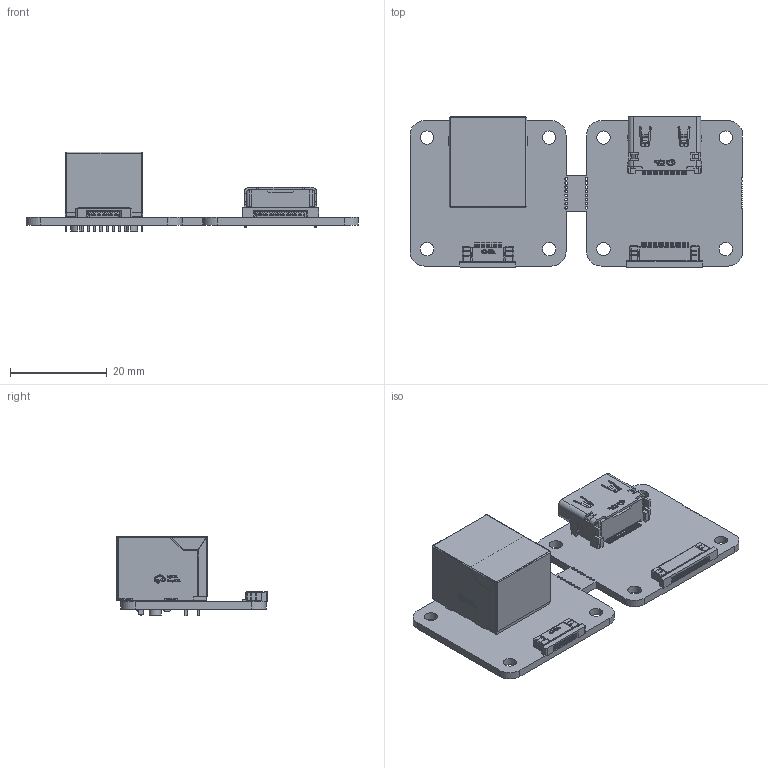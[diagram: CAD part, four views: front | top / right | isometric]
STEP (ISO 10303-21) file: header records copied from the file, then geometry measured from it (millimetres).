
FILE_DESCRIPTION(/* description */ ('Designed by EasyEDA Pro'),/* implementation_level */ '2;1');
FILE_NAME(/* name */ 'terioto_CMX_LAN_HDMI_Adapter_V2.0.step',/* time_stamp */ '2026-03-06T22:28:38+01:00',/* author */ (''),/* organization */ (''),/* preprocessor_version */ 'ST-DEVELOPER v20.1',/* originating_system */ 'Autodesk Translation Framework v14.24.0.0',/* authorisation */ '');
FILE_SCHEMA (('AUTOMOTIVE_DESIGN { 1 0 10303 214 3 1 1 }'));
Products named in the file (12): EasyEDA PCB Model~eyiH; Board~eyiH; CN1~HDMI-SMD_HYC109-HDMIA19-160~HDMI-SMD_HYC109-HDMIA19-160~eyiH; HDMI-SMD_HYC109-HDMIA19-160~HDMI-SMD_HYC109-HDMIA19-160~eyiH; RJ2~RJ45-TH_KH-RJ45-58-8P8C~RJ45-TH_KH-RJ45-58-8P8C~eyiH; RJ45-TH_KH-RJ45-58-8P8C~RJ45-TH_KH-RJ45-58-8P8C~eyiH; FPC2~FPC-SMD_12P-P0.50_05B20L12P~FPC-SMD_12P-P0.50_05B20L12P~eyiH; FPC-SMD_12P-P0.50_05B20L12P~FPC-SMD_12P-P0.50_05B20L12P~eyiH; HDMI1~HDMI-SMD_HDMI-19PIN-043~HDMI-SMD_HDMI-9PIN-043~eyiH; HDMI-SMD_HDMI-19PIN-043~HDMI-SMD_HDMI-9PIN-043~eyiH; FPC1~FPC-SMD_20P-P0.50_0.5K-AX-20PWB~FPC-SMD_20P-P0.50_0.5K-AX-20PWB~
eyiH; FPC-SMD_20P-P0.50_0.5K-AX-20PWB~FPC-SMD_20P-P0.50_0.5K-AX-20PWB~eyiH
Assembly tree (11 placements, depth 3):
  EasyEDA PCB Model~eyiH
    Board~eyiH
    CN1~HDMI-SMD_HYC109-HDMIA19-160~HDMI-SMD_HYC109-HDMIA19-160~eyiH
      HDMI-SMD_HYC109-HDMIA19-160~HDMI-SMD_HYC109-HDMIA19-160~eyiH
    RJ2~RJ45-TH_KH-RJ45-58-8P8C~RJ45-TH_KH-RJ45-58-8P8C~eyiH
      RJ45-TH_KH-RJ45-58-8P8C~RJ45-TH_KH-RJ45-58-8P8C~eyiH
    FPC2~FPC-SMD_12P-P0.50_05B20L12P~FPC-SMD_12P-P0.50_05B20L12P~eyiH
      FPC-SMD_12P-P0.50_05B20L12P~FPC-SMD_12P-P0.50_05B20L12P~eyiH
    HDMI1~HDMI-SMD_HDMI-19PIN-043~HDMI-SMD_HDMI-9PIN-043~eyiH
      HDMI-SMD_HDMI-19PIN-043~HDMI-SMD_HDMI-9PIN-043~eyiH
    FPC1~FPC-SMD_20P-P0.50_0.5K-AX-20PWB~FPC-SMD_20P-P0.50_0.5K-AX-20PWB~
eyiH
      FPC-SMD_20P-P0.50_0.5K-AX-20PWB~FPC-SMD_20P-P0.50_0.5K-AX-20PWB~eyiH
Bounding box: 68.48 x 31.15 x 16.5 mm (x, y, z)
Volume: 6718.1 mm3; surface area: 11301.2 mm2
Topology: 47 solids, 47 shells, 3650 faces, 10178 edges, 6656 vertices
Faces by surface type: plane 2618, cylinder 678, bspline 344, sphere 6, torus 4
Full cylindrical faces by diameter (mm): 0.55 x16, 1 x8, 2.75 x8, 3.2 x2
Entity records: 123959 total; most frequent: CARTESIAN_POINT 26429, ORIENTED_EDGE 20348, DIRECTION 17996, EDGE_CURVE 10174, LINE 8102, VECTOR 8102, VERTEX_POINT 6656, AXIS2_PLACEMENT_3D 4947
